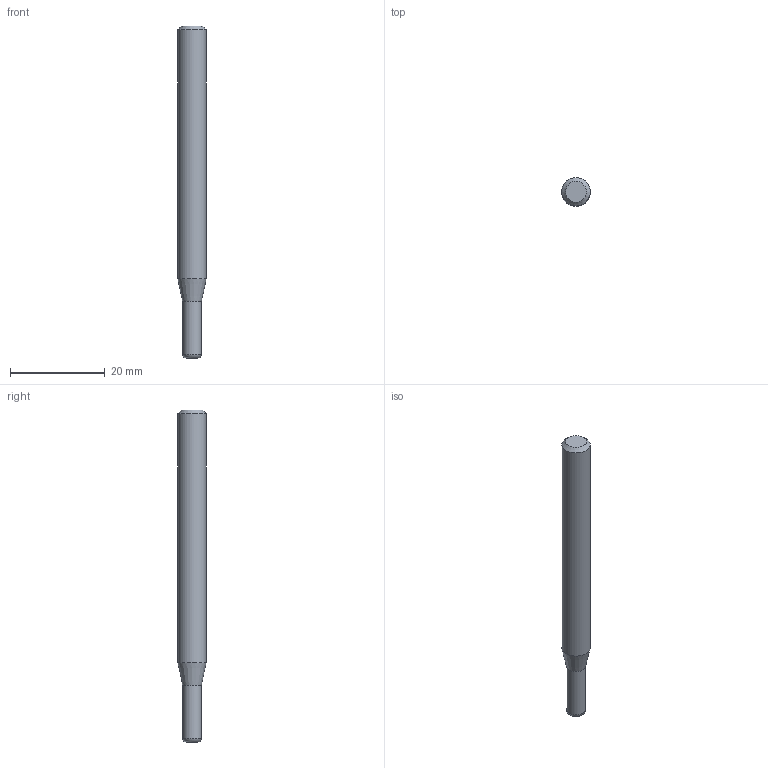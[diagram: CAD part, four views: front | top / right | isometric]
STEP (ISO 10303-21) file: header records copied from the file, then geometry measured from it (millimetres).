
FILE_DESCRIPTION((''),'2;1');
FILE_NAME('C:\Users\nsx150\AppData\Local\Temp\Mastercam 2021\03UJLO2QV3\TEMP.step','2023-09-20T09:29:38',(''),(''),'STEP Write','Mastercam 2021 ... CNC Software, Inc.','');
FILE_SCHEMA(('AUTOMOTIVE_DESIGN'));
Length unit declared in the file: millimetre
Products named in the file (1): None
Bounding box: 6 x 6 x 70 mm (x, y, z)
Volume: 1744.2 mm3; surface area: 1282.6 mm2
Topology: 2 solids, 2 shells, 9 faces, 12 edges, 7 vertices
Faces by surface type: plane 4, cylinder 2, cone 2, torus 1
Full cylindrical faces by diameter (mm): 4 x1, 6 x1
Entity records: 211 total; most frequent: DIRECTION 36, CARTESIAN_POINT 25, AXIS2_PLACEMENT_3D 18, ORIENTED_EDGE 14, EDGE_LOOP 14, STYLED_ITEM 12, ADVANCED_FACE 9, FACE_BOUND 8
